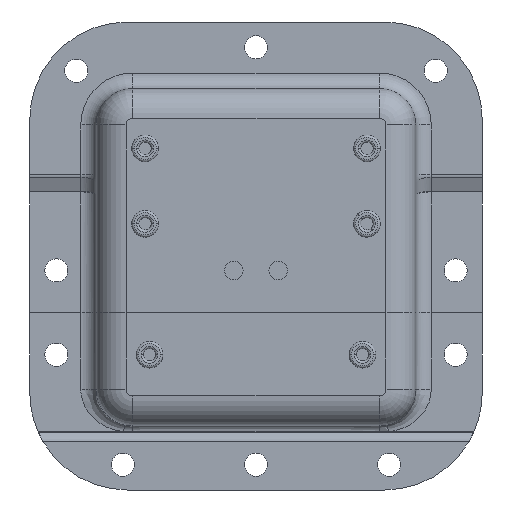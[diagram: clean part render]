
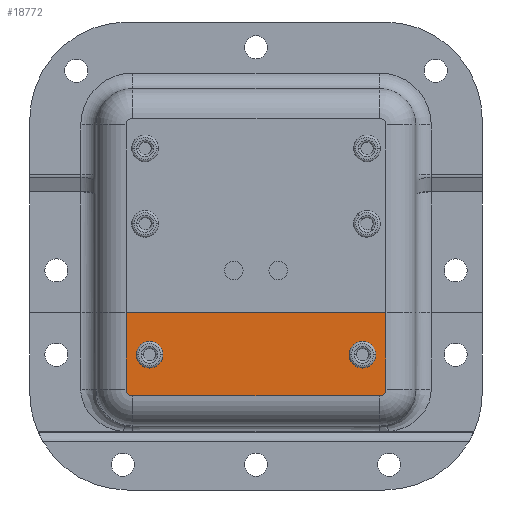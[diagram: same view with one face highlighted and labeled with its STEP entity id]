
A CAD part, front view. The second image highlights one B-rep face of the part: STEP entity #18772.
In plain terms, the highlighted planar face has unit normal (0, -1, 0).
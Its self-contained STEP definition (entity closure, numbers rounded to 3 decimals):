
#185 = LINE ( 'NONE', #12672, #16621 ) ;
#349 = CARTESIAN_POINT ( 'NONE',  ( -24., -14., 9.5 ) ) ;
#1010 = CARTESIAN_POINT ( 'NONE',  ( 27.8, -14., 18.8 ) ) ;
#1021 = ORIENTED_EDGE ( 'NONE', *, *, #13716, .F. ) ;
#1423 = DIRECTION ( 'NONE',  ( 0., 0., -1. ) ) ;
#1581 = VECTOR ( 'NONE', #23583, 1000. ) ;
#1896 = CIRCLE ( 'NONE', #6742, 2.1 ) ;
#2531 = EDGE_CURVE ( 'NONE', #13527, #23982, #22126, .T. ) ;
#2600 = ORIENTED_EDGE ( 'NONE', *, *, #8732, .T. ) ;
#2734 = DIRECTION ( 'NONE',  ( 0., -1., 0. ) ) ;
#3046 = ORIENTED_EDGE ( 'NONE', *, *, #2531, .T. ) ;
#3759 = PLANE ( 'NONE',  #16735 ) ;
#5020 = CARTESIAN_POINT ( 'NONE',  ( -27.8, -14., 18.8 ) ) ;
#5538 = CARTESIAN_POINT ( 'NONE',  ( -29.3, -14., 17.3 ) ) ;
#6059 = EDGE_CURVE ( 'NONE', #16084, #21572, #15443, .T. ) ;
#6226 = DIRECTION ( 'NONE',  ( 0., -1., 0. ) ) ;
#6304 = CARTESIAN_POINT ( 'NONE',  ( -24., -14., 7.4 ) ) ;
#6742 = AXIS2_PLACEMENT_3D ( 'NONE', #19405, #28652, #26018 ) ;
#7045 = DIRECTION ( 'NONE',  ( 0., 0., -1. ) ) ;
#7412 = CARTESIAN_POINT ( 'NONE',  ( -27.8, -14., 18.8 ) ) ;
#7569 = CARTESIAN_POINT ( 'NONE',  ( 24., -14., 7.4 ) ) ;
#7736 = DIRECTION ( 'NONE',  ( 0., -1., 0. ) ) ;
#8067 = ORIENTED_EDGE ( 'NONE', *, *, #25759, .F. ) ;
#8164 = EDGE_CURVE ( 'NONE', #11916, #13258, #10192, .T. ) ;
#8178 = CARTESIAN_POINT ( 'NONE',  ( 29.3, -14., 0. ) ) ;
#8431 = AXIS2_PLACEMENT_3D ( 'NONE', #16388, #2734, #13691 ) ;
#8732 = EDGE_CURVE ( 'NONE', #13046, #28583, #17720, .T. ) ;
#9456 = DIRECTION ( 'NONE',  ( 0., -1., 0. ) ) ;
#9843 = CARTESIAN_POINT ( 'NONE',  ( 36., -14., 0. ) ) ;
#10031 = FACE_BOUND ( 'NONE', #13991, .T. ) ;
#10192 = CIRCLE ( 'NONE', #8431, 2.1 ) ;
#10664 = AXIS2_PLACEMENT_3D ( 'NONE', #349, #16521, #25395 ) ;
#11916 = VERTEX_POINT ( 'NONE', #7569 ) ;
#12672 = CARTESIAN_POINT ( 'NONE',  ( -29.3, -14., 0. ) ) ;
#12675 = EDGE_CURVE ( 'NONE', #16396, #13527, #14187, .T. ) ;
#12715 = CARTESIAN_POINT ( 'NONE',  ( 29.3, -14., 17.3 ) ) ;
#13046 = VERTEX_POINT ( 'NONE', #5020 ) ;
#13258 = VERTEX_POINT ( 'NONE', #20568 ) ;
#13527 = VERTEX_POINT ( 'NONE', #8178 ) ;
#13551 = CARTESIAN_POINT ( 'NONE',  ( 27.8, -14., 17.3 ) ) ;
#13691 = DIRECTION ( 'NONE',  ( 0., 0., -1. ) ) ;
#13716 = EDGE_CURVE ( 'NONE', #13258, #11916, #27035, .T. ) ;
#13815 = ORIENTED_EDGE ( 'NONE', *, *, #21460, .T. ) ;
#13991 = EDGE_LOOP ( 'NONE', ( #1021, #28486 ) ) ;
#14187 = LINE ( 'NONE', #9843, #23178 ) ;
#14359 = DIRECTION ( 'NONE',  ( 0., -1., 0. ) ) ;
#15443 = CIRCLE ( 'NONE', #10664, 2.1 ) ;
#16084 = VERTEX_POINT ( 'NONE', #28781 ) ;
#16388 = CARTESIAN_POINT ( 'NONE',  ( 24., -14., 9.5 ) ) ;
#16396 = VERTEX_POINT ( 'NONE', #29777 ) ;
#16521 = DIRECTION ( 'NONE',  ( 0., -1., 0. ) ) ;
#16621 = VECTOR ( 'NONE', #1423, 1000. ) ;
#16735 = AXIS2_PLACEMENT_3D ( 'NONE', #26819, #6226, #17731 ) ;
#16761 = DIRECTION ( 'NONE',  ( 1., 0., 0. ) ) ;
#17172 = AXIS2_PLACEMENT_3D ( 'NONE', #27768, #9456, #7045 ) ;
#17587 = EDGE_CURVE ( 'NONE', #28583, #16396, #185, .T. ) ;
#17720 = CIRCLE ( 'NONE', #29274, 1.5 ) ;
#17731 = DIRECTION ( 'NONE',  ( 0., 0., -1. ) ) ;
#18354 = ORIENTED_EDGE ( 'NONE', *, *, #6059, .F. ) ;
#18668 = FACE_OUTER_BOUND ( 'NONE', #23009, .T. ) ;
#18736 = LINE ( 'NONE', #7412, #1581 ) ;
#18772 = ADVANCED_FACE ( 'NONE', ( #10031, #19410, #18668 ), #3759, .T. ) ;
#19309 = ORIENTED_EDGE ( 'NONE', *, *, #12675, .T. ) ;
#19329 = DIRECTION ( 'NONE',  ( 0., 0., -1. ) ) ;
#19405 = CARTESIAN_POINT ( 'NONE',  ( -24., -14., 9.5 ) ) ;
#19410 = FACE_BOUND ( 'NONE', #22332, .T. ) ;
#19428 = CARTESIAN_POINT ( 'NONE',  ( -27.8, -14., 17.3 ) ) ;
#19432 = CARTESIAN_POINT ( 'NONE',  ( 29.3, -14., 17.3 ) ) ;
#19837 = VERTEX_POINT ( 'NONE', #1010 ) ;
#20568 = CARTESIAN_POINT ( 'NONE',  ( 24., -14., 11.6 ) ) ;
#20676 = VECTOR ( 'NONE', #28368, 1000. ) ;
#21460 = EDGE_CURVE ( 'NONE', #19837, #13046, #18736, .T. ) ;
#21572 = VERTEX_POINT ( 'NONE', #6304 ) ;
#22126 = LINE ( 'NONE', #19432, #20676 ) ;
#22210 = CIRCLE ( 'NONE', #22948, 1.5 ) ;
#22332 = EDGE_LOOP ( 'NONE', ( #18354, #8067 ) ) ;
#22948 = AXIS2_PLACEMENT_3D ( 'NONE', #13551, #14359, #27351 ) ;
#23009 = EDGE_LOOP ( 'NONE', ( #2600, #25066, #19309, #3046, #28277, #13815 ) ) ;
#23035 = EDGE_CURVE ( 'NONE', #23982, #19837, #22210, .T. ) ;
#23178 = VECTOR ( 'NONE', #16761, 1000. ) ;
#23583 = DIRECTION ( 'NONE',  ( -1., 0., 0. ) ) ;
#23982 = VERTEX_POINT ( 'NONE', #12715 ) ;
#25066 = ORIENTED_EDGE ( 'NONE', *, *, #17587, .T. ) ;
#25395 = DIRECTION ( 'NONE',  ( 0., 0., -1. ) ) ;
#25759 = EDGE_CURVE ( 'NONE', #21572, #16084, #1896, .T. ) ;
#26018 = DIRECTION ( 'NONE',  ( 0., 0., -1. ) ) ;
#26819 = CARTESIAN_POINT ( 'NONE',  ( 27.8, -14., 17.3 ) ) ;
#27035 = CIRCLE ( 'NONE', #17172, 2.1 ) ;
#27351 = DIRECTION ( 'NONE',  ( 0., 0., -1. ) ) ;
#27768 = CARTESIAN_POINT ( 'NONE',  ( 24., -14., 9.5 ) ) ;
#28277 = ORIENTED_EDGE ( 'NONE', *, *, #23035, .T. ) ;
#28368 = DIRECTION ( 'NONE',  ( 0., 0., 1. ) ) ;
#28486 = ORIENTED_EDGE ( 'NONE', *, *, #8164, .F. ) ;
#28583 = VERTEX_POINT ( 'NONE', #5538 ) ;
#28652 = DIRECTION ( 'NONE',  ( 0., -1., 0. ) ) ;
#28781 = CARTESIAN_POINT ( 'NONE',  ( -24., -14., 11.6 ) ) ;
#29274 = AXIS2_PLACEMENT_3D ( 'NONE', #19428, #7736, #19329 ) ;
#29777 = CARTESIAN_POINT ( 'NONE',  ( -29.3, -14., 0. ) ) ;
